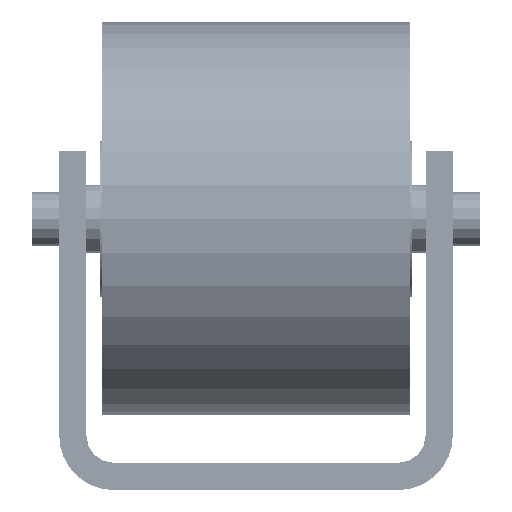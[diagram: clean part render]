
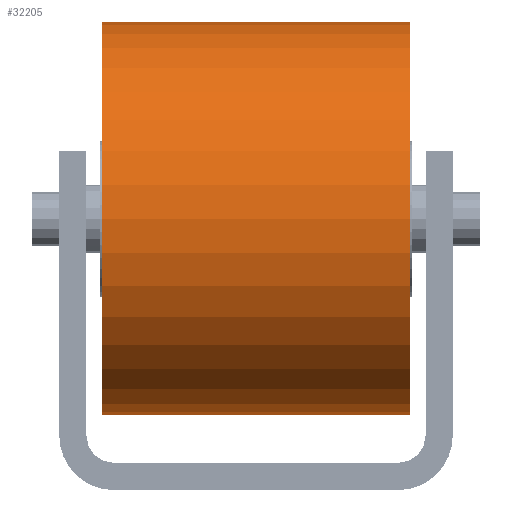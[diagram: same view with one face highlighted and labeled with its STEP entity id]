
A CAD part, front view. The second image highlights one B-rep face of the part: STEP entity #32205.
In plain terms, the highlighted cylindrical face has radius 14.5 mm (diameter 29 mm), a full revolution.
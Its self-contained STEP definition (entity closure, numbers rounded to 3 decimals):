
#815=CYLINDRICAL_SURFACE('',#34407,14.5);
#1426=CIRCLE('',#34406,14.5);
#1427=CIRCLE('',#34408,14.5);
#10430=ORIENTED_EDGE('',*,*,#15131,.T.);
#10431=ORIENTED_EDGE('',*,*,#15130,.F.);
#15130=EDGE_CURVE('',#18230,#18230,#1426,.T.);
#15131=EDGE_CURVE('',#18231,#18231,#1427,.T.);
#18230=VERTEX_POINT('',#52285);
#18231=VERTEX_POINT('',#52288);
#27728=EDGE_LOOP('',(#10430));
#27729=EDGE_LOOP('',(#10431));
#29386=FACE_BOUND('',#27728,.T.);
#29387=FACE_BOUND('',#27729,.T.);
#32205=ADVANCED_FACE('',(#29386,#29387),#815,.T.);
#34406=AXIS2_PLACEMENT_3D('',#52284,#42730,#42731);
#34407=AXIS2_PLACEMENT_3D('',#52286,#42732,#42733);
#34408=AXIS2_PLACEMENT_3D('',#52287,#42734,#42735);
#42730=DIRECTION('',(-1.,0.,0.));
#42731=DIRECTION('',(0.,0.,1.));
#42732=DIRECTION('',(-1.,0.,0.));
#42733=DIRECTION('',(0.,0.,1.));
#42734=DIRECTION('',(-1.,0.,0.));
#42735=DIRECTION('',(0.,0.,1.));
#52284=CARTESIAN_POINT('',(-11.35,0.,0.));
#52285=CARTESIAN_POINT('',(-11.35,0.,14.5));
#52286=CARTESIAN_POINT('',(-60.,0.,0.));
#52287=CARTESIAN_POINT('',(11.35,0.,0.));
#52288=CARTESIAN_POINT('',(11.35,0.,14.5));
